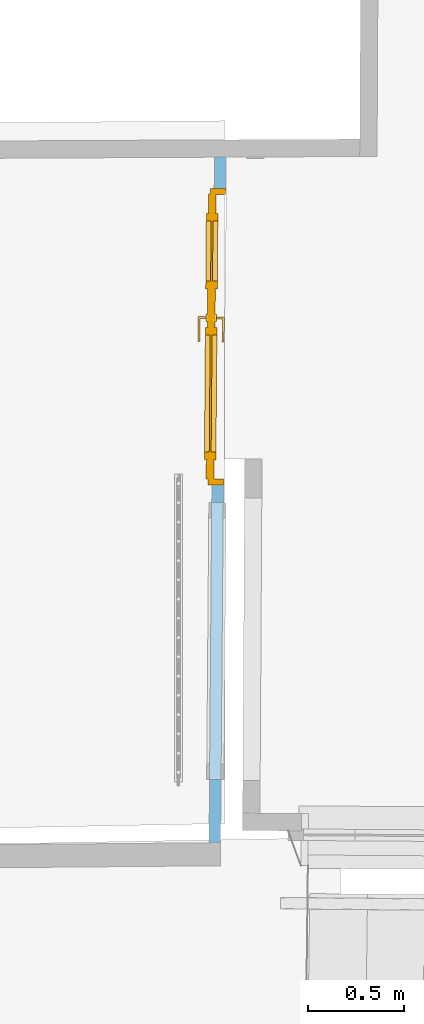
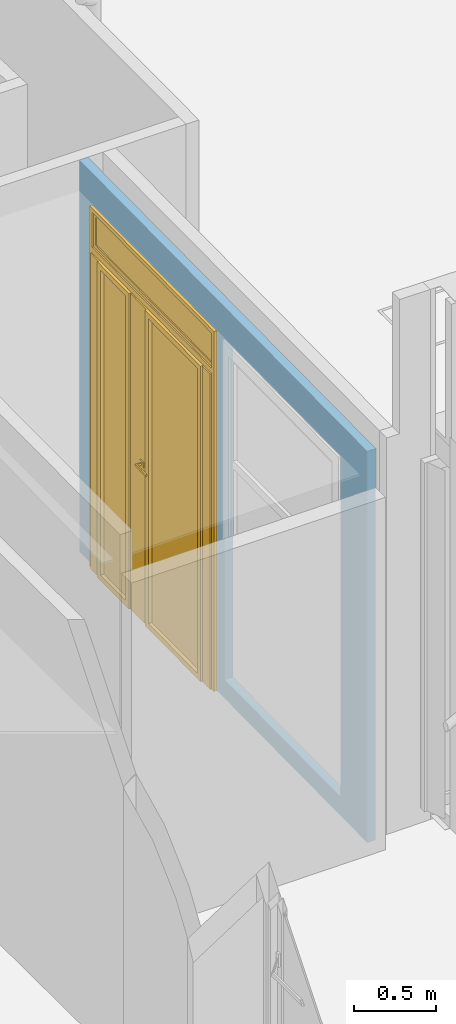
# One storey, part 111 of 133: 1 door, 2 openings, plus 1 element that does not belong to this part.
"""IFC2X3 building model written with IfcOpenShell, lengths in centimetres."""

from ifc_helpers import new_model, entity, si_unit, converted_unit, direction, frame, origin, origin_with_axes, place, context, subcontext, project, spatial, polyline, outline, extrude, clip, bounded_halfspace, faceted_brep, shape, source, transform, mapped, material, material_list, layer, layer_set, layer_usage, type_object, element, fill, save


model = new_model("IFC2X3")

# Units and contexts
model_context = context("Model", 3, precision=0.0001, world=origin(), true_north=direction((0.225632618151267, 0.974212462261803, 0.0)))
body_context = subcontext(model_context, "Body", "Model", "MODEL_VIEW")
footprint_context = subcontext(model_context, "FootPrint", "Model", "MODEL_VIEW")
profile_context = subcontext(model_context, "Profile", "Model", "MODEL_VIEW")
ifc_project = project(units=[si_unit("LENGTHUNIT", "METRE", prefix="CENTI"), si_unit("AREAUNIT", "SQUARE_METRE", prefix="CENTI"), si_unit("VOLUMEUNIT", "CUBIC_METRE", prefix="CENTI"), converted_unit("PLANEANGLEUNIT", "DEGREE", entity("IfcRatioMeasure", 0.0174532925), si_unit("PLANEANGLEUNIT", "RADIAN"), dimensions=[0, 0, 0, 0, 0, 0, 0])], contexts=[model_context])

# Site, building, storey
site_placement = place(None, origin_with_axes())
site = spatial("IfcSite", under=ifc_project, at=site_placement, Name="Default Site", CompositionType="ELEMENT")
building_placement = place(site_placement, origin_with_axes())
building = spatial("IfcBuilding", under=site, at=building_placement, Name="Default Building", CompositionType="ELEMENT")
storey_placement = place(building_placement, frame((0.0, 0.0, -291.400371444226), z_axis=(0.0, 0.0, 1.0), x_axis=(1.0, 0.0, 0.0)))
storey = spatial("IfcBuildingStorey", under=building, at=storey_placement, Name="Rez-de-Jardin", CompositionType="ELEMENT", Elevation=-291.400371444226)

# Wall, openings, door
ifc_material_1 = material(Name="<aucun>")
ifc_layer = layer(ifc_material_1, 6.0)
ifc_layer_set = layer_set([ifc_layer], Name="default")
ifc_layer_usage = layer_usage(ifc_layer_set, "AXIS2", "POSITIVE", -3.0)
wall_type = type_object("IfcWallType", Name="default 60", PredefinedType="NOTDEFINED", material=ifc_layer_set)
wall_placement = place(storey_placement, frame((1072.74238360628, -211.501360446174, -1.94511073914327e-11), z_axis=(0.0, 0.0, 1.0), x_axis=(0.00794666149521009, 0.999968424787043, 0.0)))
wall = element("IfcWallStandardCase", 1, at=wall_placement, inside=storey, type_object=wall_type, material=ifc_layer_usage, Name="Enveloppe 72513", context=body_context, shape_type="Clipping", body=[
    clip(extrude(outline(polyline([(0.0, 3.00000000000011), (0.0, -2.99999999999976), (356.153047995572, -3.000000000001), (356.07539948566, 2.99999999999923), (0.0, 3.00000000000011)])), frame((0.0, 0.0, 8.88178419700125e-14), z_axis=(0.0, 0.0, 1.0), x_axis=(1.0, 0.0, 0.0)), (0.0, 0.0, 1.0), 291.413221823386), bounded_halfspace(frame((0.0, 2.99999999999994, 262.400371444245), z_axis=(0.0, 0.0, 1.0), x_axis=(0.016676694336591, -0.999860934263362, 0.0)), True, frame((0.0, 2.99999999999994, 262.400371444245), z_axis=(0.0, 0.0, 1.0), x_axis=(1.0, 0.0, 0.0)), polyline([(0.0, -5.99999999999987), (0.0, 0.0), (0.100074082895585, -6.00000000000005), (0.0, -5.99999999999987)]))),
])
opening_1_placement = place(wall_placement, frame((32.8703989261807, 0.0, 14.0000000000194), z_axis=(0.0, 0.0, 1.0), x_axis=(1.0, -4.17027523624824e-15, 0.0)))
cartesian_point_1 = entity("IfcCartesianPoint", [-1.11022302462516e-13, 0.0, 253.5])
cartesian_point_2 = entity("IfcCartesianPoint", [143.783224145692, 2.99999999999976])
element("IfcOpeningElement", 2, at=opening_1_placement, cuts=wall, Name="4294966474_11", ObjectType="Opening", shapes=[
    shape(body_context, "Body", "SweptSolid", [extrude(outline(polyline([(-1.33226762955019e-13, 253.5), (-1.33226762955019e-13, 0.0), (143.783224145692, 0.0), (143.783224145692, 253.5), (-1.33226762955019e-13, 253.5)])), frame((0.0, 13.0, 0.0), z_axis=(0.0, -1.0, 0.0), x_axis=(1.0, 0.0, 0.0)), (0.0, 0.0, 1.0), 26.0)]),
    shape(profile_context, "Profile", "GeometricCurveSet", [entity("IfcGeometricCurveSet", [entity("IfcPolyline", [cartesian_point_1, entity("IfcCartesianPoint", [-1.11022302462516e-13, 0.0, 0.0]), entity("IfcCartesianPoint", [143.783224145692, 0.0, 0.0]), entity("IfcCartesianPoint", [143.783224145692, 0.0, 253.5]), cartesian_point_1])])]),
    shape(footprint_context, "FootPrint", "GeometricCurveSet", [entity("IfcGeometricCurveSet", [entity("IfcPolyline", [cartesian_point_2, entity("IfcCartesianPoint", [-1.33226762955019e-13, 2.99999999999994]), entity("IfcCartesianPoint", [-8.88178419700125e-14, -2.99999999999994]), entity("IfcCartesianPoint", [143.783224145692, -2.99999999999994]), cartesian_point_2])])]),
])
opening_2_placement = place(wall_placement, frame((185.932714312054, -6.82121026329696e-13, 1.86077819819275e-11), z_axis=(0.0, 0.0, 1.0), x_axis=(1.0, -4.17027523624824e-15, 0.0)))
cartesian_point_3 = entity("IfcCartesianPoint", [-9.99200722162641e-14, 0.0, 268.0])
cartesian_point_4 = entity("IfcCartesianPoint", [153.89969671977, 2.99999999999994])
opening_2 = element("IfcOpeningElement", 3, at=opening_2_placement, cuts=wall, Name="4294966364_11", ObjectType="Opening", shapes=[
    shape(body_context, "Body", "SweptSolid", [extrude(outline(polyline([(-1.33226762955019e-13, 268.0), (-1.33226762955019e-13, -4.44089209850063e-14), (153.89969671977, -4.44089209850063e-14), (153.89969671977, 268.0), (-1.33226762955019e-13, 268.0)])), frame((0.0, 13.0, 0.0), z_axis=(0.0, -1.0, 0.0), x_axis=(1.0, 0.0, 0.0)), (0.0, 0.0, 1.0), 26.0)]),
    shape(profile_context, "Profile", "GeometricCurveSet", [entity("IfcGeometricCurveSet", [entity("IfcPolyline", [cartesian_point_3, entity("IfcCartesianPoint", [-9.99200722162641e-14, 0.0, -4.44089209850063e-14]), entity("IfcCartesianPoint", [153.89969671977, 0.0, -4.44089209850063e-14]), entity("IfcCartesianPoint", [153.89969671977, 0.0, 268.0]), cartesian_point_3])])]),
    shape(footprint_context, "FootPrint", "GeometricCurveSet", [entity("IfcGeometricCurveSet", [entity("IfcPolyline", [cartesian_point_4, entity("IfcCartesianPoint", [-1.33226762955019e-13, 2.99999999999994]), entity("IfcCartesianPoint", [-8.88178419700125e-14, -2.99999999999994]), entity("IfcCartesianPoint", [153.89969671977, -2.99999999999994]), cartesian_point_4])])]),
])
ifc_material_2 = material(Name="Transparent")
ifc_material_3 = material(Name="Aluminium mat")
ifc_material_4 = material(Name="Blanc trafic")
ifc_material_list = material_list([ifc_material_2, ifc_material_3, ifc_material_4])
door_style = type_object("IfcDoorStyle", Name="Porte_2VB[1Pverre]_1IMP verre-extérieur 1", ConstructionType="NOTDEFINED", OperationType="NOTDEFINED", ParameterTakesPrecedence=False, Sizeable=False, material=ifc_material_list)
shared_shape = source(origin_with_axes(), body_context, "Body", "Brep", [
    faceted_brep([(-76.9498467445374, 4.44089209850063e-14, 3.99999991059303), (-76.9498467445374, 4.44089209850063e-14, -3.99999991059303), (-73.9498496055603, 4.44089209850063e-14, -3.99999991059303), (-73.9498496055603, 4.44089209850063e-14, 3.99999991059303), (-73.9498496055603, 265.000009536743, -3.99999991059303), (-73.9498496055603, 265.000009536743, 3.99999991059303), (-76.9498467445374, 268.00000667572, -3.99999991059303), (-76.9498467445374, 268.00000667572, 3.99999991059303), (73.9498496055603, 265.000009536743, -3.99999991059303), (73.9498496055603, 265.000009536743, 3.99999991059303), (76.9498467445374, 268.00000667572, -3.99999991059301), (73.9498496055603, 265.000009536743, -3.99999991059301), (76.9498467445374, 268.00000667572, 3.99999991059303), (76.9498467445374, 268.00000667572, -3.99999991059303), (73.9498496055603, 265.000009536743, 3.99999991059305), (76.9498467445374, 268.00000667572, 3.99999991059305), (73.9498496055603, 4.44089209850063e-14, 3.99999991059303), (73.9498496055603, 4.44089209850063e-14, -3.99999991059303), (76.9498467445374, 4.44089209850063e-14, -3.99999991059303), (76.9498467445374, 4.44089209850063e-14, 3.99999991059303)], [[[0, 1, 2, 3]], [[3, 2, 4, 5]], [[2, 1, 6, 4]], [[1, 0, 7, 6]], [[0, 3, 5, 7]], [[5, 4, 8, 9]], [[4, 6, 10, 11]], [[6, 7, 12, 13]], [[7, 5, 14, 15]], [[16, 17, 18, 19]], [[9, 8, 17, 16]], [[8, 13, 18, 17]], [[13, 12, 19, 18]], [[12, 9, 16, 19]]]),
    faceted_brep([(71.4498460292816, 262.5, 2.99999993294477), (70.9498463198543, 261.999988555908, 2.50000022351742), (70.9498463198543, 241.899991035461, 2.50000022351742), (71.4498460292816, 241.400003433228, 2.99999993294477), (70.9498465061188, 261.999988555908, 2.5000000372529), (70.9498465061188, 261.999988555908, 1.49999996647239), (70.9498465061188, 241.899991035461, 1.49999996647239), (70.9498465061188, 241.899991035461, 2.5000000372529), (71.4498462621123, 262.5, 1.0000002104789), (71.4498462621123, 241.400003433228, 1.0000002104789), (71.4498460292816, 262.5, 0.999999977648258), (73.9498496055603, 265.000009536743, 0.999999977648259), (73.9498496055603, 238.899993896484, 0.999999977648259), (71.4498460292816, 241.400003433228, 0.999999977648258), (73.9498496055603, 265.000009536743, 0.999999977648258), (73.9498496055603, 265.000009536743, 2.99999993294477), (73.9498496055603, 238.899993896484, 2.99999993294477), (73.9498496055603, 238.899993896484, 0.999999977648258), (70.9498465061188, 241.89999718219, 2.50000618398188), (-70.9498465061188, 241.89999718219, 2.50000618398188), (-71.4498460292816, 241.400003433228, 2.99999993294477), (-70.9498465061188, 241.899991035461, 1.49999996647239), (-70.9498465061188, 241.899991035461, 2.5000000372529), (71.4498460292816, 241.399997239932, 1.00000617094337), (-71.4498460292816, 241.399997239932, 1.00000617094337), (-73.9498496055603, 238.899993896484, 0.999999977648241), (-71.4498460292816, 241.400003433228, 0.999999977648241), (-73.9498496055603, 238.899993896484, 2.99999993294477), (-73.9498496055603, 238.899993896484, 0.999999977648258), (-71.4498460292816, 241.400003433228, 2.99999993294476), (-73.9498496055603, 238.899993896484, 2.99999993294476), (-70.9498463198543, 241.899991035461, 2.50000022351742), (-70.9498463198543, 261.999988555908, 2.50000022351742), (-71.4498460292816, 262.5, 2.99999993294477), (-70.9498465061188, 261.999988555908, 1.49999996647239), (-70.9498465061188, 261.999988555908, 2.5000000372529), (-71.4498462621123, 241.400003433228, 1.0000002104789), (-71.4498462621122, 262.5, 1.00000021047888), (-70.9498465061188, 261.999988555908, 1.49999996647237), (-71.4498460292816, 241.400003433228, 0.999999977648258), (-73.9498496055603, 265.000009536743, 0.999999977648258), (-71.4498460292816, 262.5, 0.999999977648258), (-73.9498496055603, 265.000009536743, 2.99999993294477), (-71.4498460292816, 241.400003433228, 2.99999993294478), (-71.4498460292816, 262.5, 2.99999993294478), (-70.9498465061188, 261.999994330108, 2.49999426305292), (70.9498465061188, 261.999994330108, 2.49999426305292), (-71.4498460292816, 262.499994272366, 0.999994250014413), (71.4498460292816, 262.499994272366, 0.999994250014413), (73.9498496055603, 265.000009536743, 0.999999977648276), (71.4498460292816, 262.5, 0.999999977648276), (71.4498460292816, 262.5, 2.99999993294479), (73.9498496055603, 265.000009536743, 2.99999993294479)], [[[0, 1, 2, 3]], [[4, 5, 6, 7]], [[5, 8, 9, 6]], [[10, 11, 12, 13]], [[14, 15, 16, 17]], [[15, 0, 3, 16]], [[3, 18, 19, 20]], [[7, 6, 21, 22]], [[6, 23, 24, 21]], [[13, 12, 25, 26]], [[17, 16, 27, 28]], [[16, 3, 29, 30]], [[20, 31, 32, 33]], [[22, 21, 34, 35]], [[21, 36, 37, 38]], [[39, 28, 40, 41]], [[28, 27, 42, 40]], [[27, 43, 44, 42]], [[33, 45, 46, 0]], [[35, 34, 5, 4]], [[34, 47, 48, 5]], [[41, 40, 49, 50]], [[40, 42, 15, 14]], [[42, 44, 51, 52]]]),
    faceted_brep([(-70.9498465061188, 261.999988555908, 2.5000000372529), (-70.9498465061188, 241.899991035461, 2.5000000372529), (70.9498465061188, 241.899991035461, 2.50000003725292), (70.9498465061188, 261.999988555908, 2.50000003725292), (70.9498465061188, 261.999988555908, 1.49999996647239), (70.9498465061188, 241.899991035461, 1.49999996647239), (-70.9498465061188, 241.899991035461, 1.49999996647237), (-70.9498465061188, 261.999988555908, 1.49999996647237), (70.9498465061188, 261.999988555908, 2.5000000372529), (70.9498465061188, 241.899991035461, 2.5000000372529), (-70.9498465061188, 241.899991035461, 1.49999996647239), (-70.9498465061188, 261.999988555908, 1.49999996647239)], [[[0, 1, 2, 3]], [[4, 5, 6, 7]], [[8, 9, 5, 4]], [[9, 1, 10, 5]], [[1, 0, 11, 10]], [[0, 8, 4, 11]]]),
    faceted_brep([(-73.9498496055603, 234.899997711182, -9.05624466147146e-15), (-73.9498496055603, 234.899997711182, 3.99999991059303), (-73.9498496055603, 238.899993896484, 3.99999991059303), (-73.9498496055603, 238.899993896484, -9.05624466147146e-15), (73.9498496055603, 238.899993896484, 9.05624466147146e-15), (73.9498496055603, 238.899993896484, 3.99999991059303), (73.9498496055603, 234.899997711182, 3.99999991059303), (73.9498496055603, 234.899997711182, 9.05624466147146e-15), (73.9498496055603, 234.899997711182, 3.99999991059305), (73.9498496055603, 238.899993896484, 3.99999991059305), (73.9498496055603, 238.899993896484, 9.05624545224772e-15), (73.9498496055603, 234.899997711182, 9.05624545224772e-15)], [[[0, 1, 2, 3]], [[4, 5, 6, 7]], [[3, 2, 5, 4]], [[2, 1, 8, 9]], [[1, 0, 7, 6]], [[0, 3, 10, 11]]]),
    faceted_brep([(73.9498496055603, 234.899997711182, 5.00000007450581), (73.9498496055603, 234.899997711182, 0.999999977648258), (64.4498467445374, 234.899997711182, 0.999999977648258), (63.9498472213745, 234.899997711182, 1.49999996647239), (63.9498472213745, 234.899997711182, 4.50000017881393), (64.4498467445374, 234.899997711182, 5.00000007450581), (64.4498467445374, 4.44089209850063e-14, 5.00000007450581), (63.9498472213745, 4.44089209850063e-14, 4.50000017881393), (63.9498472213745, 4.44089209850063e-14, 1.49999996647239), (64.4498467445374, 4.44089209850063e-14, 0.999999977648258), (73.9498496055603, 4.44089209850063e-14, 0.999999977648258), (73.9498496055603, 4.44089209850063e-14, 5.00000007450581), (63.94984703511, 234.899997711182, 4.50000036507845), (63.94984703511, 4.44089209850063e-14, 4.50000036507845), (64.449846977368, 234.899997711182, 1.0000002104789), (64.449846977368, 4.44089209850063e-14, 1.0000002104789), (73.9498496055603, 234.899997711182, 0.999999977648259), (73.9498496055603, 4.44089209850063e-14, 0.999999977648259), (64.4498467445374, 234.899997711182, 5.0000000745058), (64.4498467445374, 4.44089209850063e-14, 5.0000000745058)], [[[0, 1, 2, 3, 4, 5]], [[6, 7, 8, 9, 10, 11]], [[5, 12, 13, 6]], [[4, 3, 8, 7]], [[3, 14, 15, 8]], [[2, 16, 17, 9]], [[1, 0, 11, 10]], [[0, 18, 19, 11]]]),
    faceted_brep([(-14.7899702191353, 4.44089209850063e-14, 5.00000007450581), (-14.7899702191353, 4.44089209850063e-14, 0.999999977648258), (-5.28996959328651, 4.44089209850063e-14, 0.999999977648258), (-4.78996969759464, 4.44089209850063e-14, 1.49999996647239), (-4.78996969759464, 4.44089209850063e-14, 4.50000017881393), (-5.28996959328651, 4.44089209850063e-14, 5.00000007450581), (-5.28996959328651, 234.899997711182, 5.00000007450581), (-4.78996969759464, 234.899997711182, 4.50000017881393), (-4.78996969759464, 234.899997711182, 1.49999996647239), (-5.28996959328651, 234.899997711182, 0.999999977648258), (-14.7899702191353, 234.899997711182, 0.999999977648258), (-14.7899702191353, 234.899997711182, 5.00000007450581), (-4.78996969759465, 234.899997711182, 4.50000017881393), (-5.28996959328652, 234.899997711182, 5.0000000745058), (-4.78996969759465, 234.899997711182, 1.49999996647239), (-5.28996963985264, 4.44089209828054e-14, 1.00000002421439), (-5.28996963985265, 234.899997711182, 1.00000002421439), (-14.7899702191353, 4.44089209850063e-14, 0.999999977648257), (-14.7899702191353, 234.899997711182, 0.999999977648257)], [[[0, 1, 2, 3, 4, 5]], [[6, 7, 8, 9, 10, 11]], [[5, 4, 12, 13]], [[4, 3, 14, 12]], [[3, 15, 16, 14]], [[2, 17, 18, 9]], [[1, 0, 11, 10]], [[0, 5, 6, 11]]]),
    faceted_brep([(-11.7899693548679, 119.449996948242, 5.00000007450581), (-7.7899694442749, 119.449996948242, 5.00000007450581), (-7.7899694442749, 115.450000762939, 5.00000007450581), (-11.7899693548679, 115.450000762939, 5.00000007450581), (-11.7899693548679, 115.450000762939, 5.79999983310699), (-7.7899694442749, 115.450000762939, 5.799999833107), (-7.7899694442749, 119.449996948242, 5.799999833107), (-11.7899693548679, 119.449996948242, 5.79999983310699)], [[[0, 1, 2, 3]], [[4, 5, 6, 7]], [[3, 2, 5, 4]], [[2, 1, 6, 5]], [[1, 0, 7, 6]], [[0, 3, 4, 7]]]),
    faceted_brep([(-10.2899700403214, 118.2000041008, 5.79999983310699), (-9.28996950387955, 118.2000041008, 5.79999983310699), (-9.28996950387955, 116.700005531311, 5.79999983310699), (-10.2899700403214, 116.700005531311, 5.79999983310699), (-10.2899700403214, 116.700005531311, 9.79999974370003), (-9.28996987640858, 116.700005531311, 8.79999957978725), (-9.28996987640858, 118.2000041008, 8.79999957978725), (-10.2899700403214, 118.2000041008, 9.79999974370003), (-9.28996950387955, 116.700005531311, 8.79999995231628), (-9.28996950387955, 118.2000041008, 8.79999995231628)], [[[0, 1, 2, 3]], [[4, 5, 6, 7]], [[3, 2, 8, 4]], [[2, 1, 9, 8]], [[1, 0, 7, 9]], [[0, 3, 4, 7]]]),
    faceted_brep([(-10.2899700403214, 118.2000041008, 9.79999974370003), (-9.28996987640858, 118.2000041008, 8.79999957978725), (-9.28996987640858, 116.700005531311, 8.79999957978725), (-10.2899700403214, 116.700005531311, 9.79999974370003), (2.71003041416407, 116.700005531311, 9.79999974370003), (2.71003041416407, 116.700005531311, 8.79999995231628), (2.71003041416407, 118.2000041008, 8.79999995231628), (2.71003041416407, 118.2000041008, 9.79999974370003), (-9.28996950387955, 116.700005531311, 8.79999995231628), (-9.28996950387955, 118.2000041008, 8.79999995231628), (2.71003041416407, 118.2000041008, 8.79999995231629), (2.71003041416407, 116.700005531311, 8.79999995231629)], [[[0, 1, 2, 3]], [[4, 5, 6, 7]], [[3, 8, 5, 4]], [[8, 9, 10, 11]], [[9, 0, 7, 6]], [[0, 3, 4, 7]]]),
    faceted_brep([(-11.7899693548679, 115.450000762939, 0.999999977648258), (-7.7899694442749, 115.450000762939, 0.999999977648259), (-7.7899694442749, 119.449996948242, 0.999999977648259), (-11.7899693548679, 119.449996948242, 0.999999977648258), (-11.7899693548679, 119.449996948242, 0.20000000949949), (-7.7899694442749, 119.449996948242, 0.200000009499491), (-7.7899694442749, 115.450000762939, 0.200000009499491), (-11.7899693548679, 115.450000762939, 0.20000000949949), (-7.7899694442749, 119.449996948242, 0.999999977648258), (-7.7899694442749, 119.449996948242, 0.20000000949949), (-7.7899694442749, 115.450000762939, 0.999999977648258), (-7.7899694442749, 115.450000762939, 0.20000000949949)], [[[0, 1, 2, 3]], [[4, 5, 6, 7]], [[3, 8, 9, 4]], [[8, 10, 11, 9]], [[10, 0, 7, 11]], [[0, 3, 4, 7]]]),
    faceted_brep([(-10.2899700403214, 116.700005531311, 0.20000000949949), (-9.28996950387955, 116.700005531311, 0.20000000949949), (-9.28996950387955, 118.2000041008, 0.20000000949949), (-10.2899700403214, 118.2000041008, 0.20000000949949), (-10.2899700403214, 118.2000041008, -3.79999987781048), (-9.28996987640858, 118.2000041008, -2.79999971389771), (-9.28996987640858, 116.700005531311, -2.79999971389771), (-10.2899700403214, 116.700005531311, -3.79999987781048), (-9.28996950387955, 118.2000041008, -2.80000008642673), (-9.28996950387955, 116.700005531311, -2.80000008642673)], [[[0, 1, 2, 3]], [[4, 5, 6, 7]], [[3, 2, 8, 4]], [[2, 1, 9, 8]], [[1, 0, 7, 9]], [[0, 3, 4, 7]]]),
    faceted_brep([(-10.2899700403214, 116.700005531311, -3.79999987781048), (-9.28996987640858, 116.700005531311, -2.79999971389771), (-9.28996987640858, 118.2000041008, -2.79999971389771), (-10.2899700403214, 118.2000041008, -3.79999987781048), (2.71003041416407, 118.2000041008, -3.79999987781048), (2.71003041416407, 118.2000041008, -2.80000008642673), (2.71003041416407, 116.700005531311, -2.80000008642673), (2.71003041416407, 116.700005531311, -3.79999987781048), (-9.28996950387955, 118.2000041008, -2.80000008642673), (-9.28996950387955, 116.700005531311, -2.80000008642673), (2.71003041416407, 116.700005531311, -2.80000008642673), (2.71003041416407, 118.2000041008, -2.80000008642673)], [[[0, 1, 2, 3]], [[4, 5, 6, 7]], [[3, 8, 5, 4]], [[8, 9, 10, 11]], [[9, 0, 7, 6]], [[0, 3, 4, 7]]]),
    faceted_brep([(59.9498510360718, 230.900001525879, 5.99999986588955), (59.9498510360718, 230.900001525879, 7.34173880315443e-15), (59.9498510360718, 3.99999991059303, 7.34173880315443e-15), (59.9498510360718, 3.99999991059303, 5.99999986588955), (63.9498472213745, 234.899997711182, 7.8315970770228e-15), (63.9498472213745, 4.44089209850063e-14, 7.8315970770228e-15), (63.9498472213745, 234.899997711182, 7.8315978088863e-15), (63.9498472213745, 234.899997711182, 5.99999986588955), (63.9498472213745, 4.44089209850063e-14, 5.99999986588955), (63.9498472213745, 4.44089209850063e-14, 7.8315978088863e-15), (-0.789969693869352, 3.99999991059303, -9.67433841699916e-17), (-0.789969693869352, 3.99999991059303, 5.99999986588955), (-4.78996969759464, 4.44089209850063e-14, -5.86602966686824e-16), (-0.789969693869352, 3.99999991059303, -9.674422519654e-17), (-4.78996969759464, 4.44089209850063e-14, 5.99999986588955), (-4.78996969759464, 4.44089209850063e-14, -5.86602121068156e-16), (-0.789969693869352, 3.99999991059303, 5.99999986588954), (-4.78996969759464, 4.44089209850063e-14, 5.99999986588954), (-0.789969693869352, 3.99999991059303, -9.67433841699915e-17), (-0.789969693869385, 230.900001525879, -9.67433841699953e-17), (-0.789969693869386, 230.900001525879, 5.99999986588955), (-4.78996969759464, 4.44089209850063e-14, -5.86602125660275e-16), (-4.78996969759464, 234.899997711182, -5.86602125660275e-16), (-0.789969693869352, 230.900001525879, -9.67433841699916e-17), (-4.78996969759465, 234.899997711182, 5.99999986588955), (-4.78996969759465, 234.899997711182, -5.86602121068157e-16), (-0.789969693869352, 230.900001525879, 5.99999986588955), (-4.78996969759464, 234.899997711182, 5.99999986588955), (63.9498472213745, 234.899997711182, 7.83159791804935e-15), (59.9498510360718, 230.900001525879, 7.34173964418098e-15), (-4.78996969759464, 234.899997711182, -5.86602121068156e-16), (59.9498510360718, 230.900001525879, 5.99999986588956), (63.9498472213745, 234.899997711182, 5.99999986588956)], [[[0, 1, 2, 3]], [[1, 4, 5, 2]], [[6, 7, 8, 9]], [[7, 0, 3, 8]], [[3, 2, 10, 11]], [[2, 5, 12, 13]], [[9, 8, 14, 15]], [[8, 3, 16, 17]], [[11, 18, 19, 20]], [[10, 21, 22, 23]], [[15, 14, 24, 25]], [[14, 11, 26, 27]], [[26, 23, 1, 0]], [[23, 22, 28, 29]], [[30, 27, 7, 6]], [[27, 26, 31, 32]]]),
    faceted_brep([(-0.789969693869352, 230.900001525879, 3.50000001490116), (-0.789969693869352, 3.99999991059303, 3.50000001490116), (59.9498510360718, 3.99999991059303, 3.50000001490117), (59.9498510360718, 230.900001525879, 3.50000001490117), (59.9498510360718, 230.900001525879, 2.5000000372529), (59.9498510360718, 3.99999991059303, 2.5000000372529), (-0.789969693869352, 3.99999991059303, 2.5000000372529), (-0.789969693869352, 230.900001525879, 2.5000000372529), (59.9498510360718, 230.900001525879, 3.50000001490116), (59.9498510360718, 3.99999991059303, 3.50000001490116), (-0.789969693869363, 230.900001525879, 3.50000001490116), (-0.789969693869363, 230.900001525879, 2.5000000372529)], [[[0, 1, 2, 3]], [[4, 5, 6, 7]], [[8, 9, 5, 4]], [[9, 1, 6, 5]], [[1, 10, 11, 6]], [[0, 8, 4, 7]]]),
    faceted_brep([(-14.7899702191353, 234.899997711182, 5.00000007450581), (-14.7899702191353, 234.899997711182, 0.999999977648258), (-24.289970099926, 234.899997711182, 0.999999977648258), (-24.7899696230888, 234.899997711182, 1.49999996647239), (-24.7899696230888, 234.899997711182, 4.50000017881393), (-24.289970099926, 234.899997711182, 5.00000007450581), (-24.289970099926, 4.44089209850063e-14, 5.00000007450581), (-24.7899696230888, 4.44089209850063e-14, 4.50000017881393), (-24.7899696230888, 4.44089209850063e-14, 1.49999996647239), (-24.289970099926, 4.44089209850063e-14, 0.999999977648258), (-14.7899702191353, 4.44089209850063e-14, 0.999999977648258), (-14.7899702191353, 4.44089209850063e-14, 5.00000007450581), (-24.7899698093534, 234.899997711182, 4.50000036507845), (-24.7899698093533, 4.44089209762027e-14, 4.50000036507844), (-24.289970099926, 4.44089209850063e-14, 5.0000000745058), (-24.2899698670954, 234.899997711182, 1.0000002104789), (-24.2899698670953, 4.44089209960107e-14, 1.00000021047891), (-14.7899702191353, 234.899997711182, 0.999999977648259), (-14.7899702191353, 4.44089209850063e-14, 0.999999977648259), (-24.289970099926, 234.899997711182, 5.00000007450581)], [[[0, 1, 2, 3, 4, 5]], [[6, 7, 8, 9, 10, 11]], [[5, 12, 13, 14]], [[4, 3, 8, 7]], [[3, 15, 16, 8]], [[2, 17, 18, 9]], [[1, 0, 11, 10]], [[0, 19, 14, 11]]]),
    faceted_brep([(-73.9498496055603, 4.44089209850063e-14, 5.00000007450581), (-73.9498496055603, 4.44089209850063e-14, 0.999999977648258), (-64.4498467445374, 4.44089209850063e-14, 0.999999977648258), (-63.9498472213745, 4.44089209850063e-14, 1.49999996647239), (-63.9498472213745, 4.44089209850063e-14, 4.50000017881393), (-64.4498467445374, 4.44089209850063e-14, 5.00000007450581), (-64.4498467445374, 234.899997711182, 5.00000007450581), (-63.9498472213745, 234.899997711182, 4.50000017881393), (-63.9498472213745, 234.899997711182, 1.49999996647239), (-64.4498467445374, 234.899997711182, 0.999999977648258), (-73.9498496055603, 234.899997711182, 0.999999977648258), (-73.9498496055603, 234.899997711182, 5.00000007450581), (-63.94984703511, 4.44089209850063e-14, 4.50000036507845), (-63.94984703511, 234.899997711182, 4.50000036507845), (-64.449846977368, 4.44089209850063e-14, 1.0000002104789), (-64.449846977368, 234.899997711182, 1.0000002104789), (-73.9498496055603, 4.44089209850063e-14, 0.999999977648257), (-73.9498496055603, 234.899997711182, 0.999999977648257)], [[[0, 1, 2, 3, 4, 5]], [[6, 7, 8, 9, 10, 11]], [[5, 12, 13, 6]], [[4, 3, 8, 7]], [[3, 14, 15, 8]], [[2, 16, 17, 9]], [[1, 0, 11, 10]], [[0, 5, 6, 11]]]),
    faceted_brep([(-28.7899702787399, 230.900001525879, 5.99999986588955), (-28.7899702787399, 230.900001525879, -3.52575445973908e-15), (-28.7899702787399, 3.99999991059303, -3.52575445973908e-15), (-28.7899702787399, 3.99999991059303, 5.99999986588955), (-24.7899696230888, 234.899997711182, -3.03589563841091e-15), (-24.7899696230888, 4.44089209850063e-14, -3.03589563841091e-15), (-24.7899696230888, 234.899997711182, -3.03589578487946e-15), (-24.7899696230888, 234.899997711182, 5.99999986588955), (-24.7899696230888, 4.44089209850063e-14, 5.99999986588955), (-24.7899696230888, 4.44089209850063e-14, -3.03589578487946e-15), (-59.9498510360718, 3.99999991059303, -7.34173880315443e-15), (-59.9498510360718, 3.99999991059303, 5.99999986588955), (-63.9498472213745, 4.44089209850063e-14, -7.831597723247e-15), (-59.9498510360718, 3.99999991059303, -7.34173944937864e-15), (-63.9498472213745, 4.44089209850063e-14, 5.99999986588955), (-63.9498472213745, 4.44089209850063e-14, -7.8315978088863e-15), (-59.9498510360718, 3.99999991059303, 5.99999986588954), (-63.9498472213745, 4.44089209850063e-14, 5.99999986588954), (-59.9498510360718, 230.900001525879, -7.34173880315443e-15), (-59.9498510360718, 230.900001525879, 5.99999986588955), (-63.9498472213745, 4.44089209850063e-14, -7.8315970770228e-15), (-63.9498472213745, 234.899997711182, -7.8315970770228e-15), (-63.9498472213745, 234.899997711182, 5.99999986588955), (-63.9498472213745, 234.899997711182, -7.8315978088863e-15), (-24.7899696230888, 234.899997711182, -3.0358949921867e-15), (-28.7899702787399, 230.900001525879, -3.52575381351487e-15)], [[[0, 1, 2, 3]], [[1, 4, 5, 2]], [[6, 7, 8, 9]], [[7, 0, 3, 8]], [[3, 2, 10, 11]], [[2, 5, 12, 13]], [[9, 8, 14, 15]], [[8, 3, 16, 17]], [[11, 10, 18, 19]], [[10, 20, 21, 18]], [[15, 14, 22, 23]], [[14, 11, 19, 22]], [[19, 18, 1, 0]], [[18, 21, 24, 25]], [[23, 22, 7, 6]], [[22, 19, 0, 7]]]),
    faceted_brep([(-59.9498510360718, 230.900001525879, 3.50000001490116), (-59.9498510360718, 3.99999991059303, 3.50000001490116), (-28.7899702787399, 3.99999991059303, 3.50000001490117), (-28.7899702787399, 230.900001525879, 3.50000001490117), (-28.7899702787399, 230.900001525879, 2.5000000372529), (-28.7899702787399, 3.99999991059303, 2.5000000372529), (-59.9498510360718, 3.99999991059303, 2.5000000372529), (-59.9498510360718, 230.900001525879, 2.5000000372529), (-28.7899702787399, 230.900001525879, 3.50000001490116), (-28.7899702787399, 3.99999991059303, 3.50000001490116)], [[[0, 1, 2, 3]], [[4, 5, 6, 7]], [[8, 9, 5, 4]], [[9, 1, 6, 5]], [[1, 0, 7, 6]], [[0, 8, 4, 7]]]),
])
door_placement = place(opening_2_placement, frame((7.105427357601e-15, -2.99999999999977, 0.0), z_axis=(0.0, 0.0, 1.0), x_axis=(1.0, 0.0, 0.0)))
door = element("IfcDoor", 4, at=door_placement, inside=storey, type_object=door_style, material=ifc_material_list, Name="Porte 73498", OverallHeight=268.0, OverallWidth=153.899696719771, context=body_context, shape_type="MappedRepresentation", body=[
    mapped(shared_shape, transform((76.9498483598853, 4.00000000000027, 1.33226762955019e-13), x_axis=(-1.0, 0.0, 0.0), y_axis=(0.0, 0.0, 1.0), z_axis=(0.0, 1.0, 0.0), scale=1.0, scale2=1.0, scale3=1.0, uniform=False)),
])
fill(opening_2, door)

save(model, "model.ifc")
